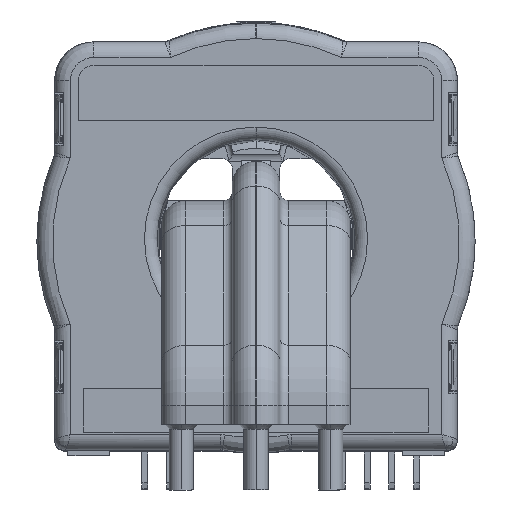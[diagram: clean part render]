
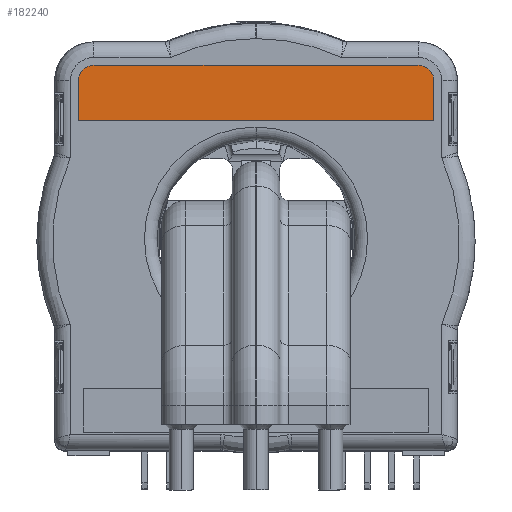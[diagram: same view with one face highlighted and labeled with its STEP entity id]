
A CAD part, front view. The second image highlights one B-rep face of the part: STEP entity #182240.
In plain terms, the highlighted planar face has unit normal (0, -1, 0).
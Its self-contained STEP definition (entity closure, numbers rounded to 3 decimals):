
#106450=CARTESIAN_POINT('',(18.225,-9.86,19.145));
#106460=VERTEX_POINT('',#106450);
#106490=CARTESIAN_POINT('',(0.,-9.86,19.145));
#106500=DIRECTION('',(-1.,0.,0.));
#106510=VECTOR('',#106500,1.);
#106520=LINE('',#106490,#106510);
#106530=CARTESIAN_POINT('',(13.999,-9.86,19.145));
#106540=VERTEX_POINT('',#106530);
#106550=EDGE_CURVE('',#106460,#106540,#106520,.T.);
#106800=CARTESIAN_POINT('',(13.999,-9.86,0.));
#106810=DIRECTION('',(0.,0.,-1.));
#106820=VECTOR('',#106810,1.);
#106830=LINE('',#106800,#106820);
#106840=CARTESIAN_POINT('',(13.999,-9.86,-17.403));
#106850=VERTEX_POINT('',#106840);
#106860=EDGE_CURVE('',#106540,#106850,#106830,.T.);
#107650=CARTESIAN_POINT('',(19.7,-9.86,17.308));
#107660=VERTEX_POINT('',#107650);
#107830=CARTESIAN_POINT('',(19.7,-9.86,-15.566));
#107840=VERTEX_POINT('',#107830);
#107870=CARTESIAN_POINT('',(19.7,-9.86,0.));
#107880=DIRECTION('',(0.,0.,1.));
#107890=VECTOR('',#107880,1.);
#107900=LINE('',#107870,#107890);
#107910=EDGE_CURVE('',#107840,#107660,#107900,.T.);
#108010=CARTESIAN_POINT('',(18.045,-9.86,17.49));
#108020=DIRECTION('',(0.,1.,0.));
#108030=DIRECTION('',(-1.,0.,0.));
#108040=AXIS2_PLACEMENT_3D('',#108010,#108020,#108030);
#108050=CIRCLE('',#108040,1.665);
#108060=CARTESIAN_POINT('',(19.71,-9.86,17.49));
#108070=VERTEX_POINT('',#108060);
#108080=EDGE_CURVE('',#108070,#107660,#108050,.T.);
#108480=CARTESIAN_POINT('',(19.71,-9.86,-15.748));
#108490=VERTEX_POINT('',#108480);
#108520=CARTESIAN_POINT('',(18.045,-9.86,-15.748));
#108530=DIRECTION('',(0.,-1.,0.));
#108540=DIRECTION('',(-1.,0.,0.));
#108550=AXIS2_PLACEMENT_3D('',#108520,#108530,#108540);
#108560=CIRCLE('',#108550,1.665);
#108570=EDGE_CURVE('',#108490,#107840,#108560,.T.);
#108670=CARTESIAN_POINT('',(0.,-9.86,-17.403));
#108680=DIRECTION('',(-1.,0.,0.));
#108690=VECTOR('',#108680,1.);
#108700=LINE('',#108670,#108690);
#108710=CARTESIAN_POINT('',(18.225,-9.86,-17.403));
#108720=VERTEX_POINT('',#108710);
#108730=EDGE_CURVE('',#108720,#106850,#108700,.T.);
#182070=CARTESIAN_POINT('',(20.47,-9.86,22.8));
#182080=DIRECTION('',(-0.,-1.,-0.));
#182090=DIRECTION('',(-1.,0.,0.));
#182100=AXIS2_PLACEMENT_3D('',#182070,#182080,#182090);
#182110=PLANE('',#182100);
#182120=ORIENTED_EDGE('',*,*,#106550,.T.);
#182130=EDGE_CURVE('',#106460,#108070,#108050,.T.);
#182140=ORIENTED_EDGE('',*,*,#182130,.F.);
#182150=ORIENTED_EDGE('',*,*,#108080,.F.);
#182160=ORIENTED_EDGE('',*,*,#107910,.T.);
#182170=ORIENTED_EDGE('',*,*,#108570,.T.);
#182180=EDGE_CURVE('',#108720,#108490,#108560,.T.);
#182190=ORIENTED_EDGE('',*,*,#182180,.T.);
#182200=ORIENTED_EDGE('',*,*,#108730,.F.);
#182210=ORIENTED_EDGE('',*,*,#106860,.T.);
#182220=EDGE_LOOP('',(#182210,#182200,#182190,#182170,#182160,#182150,
#182140,#182120));
#182230=FACE_OUTER_BOUND('',#182220,.T.);
#182240=ADVANCED_FACE('',(#182230),#182110,.T.);
